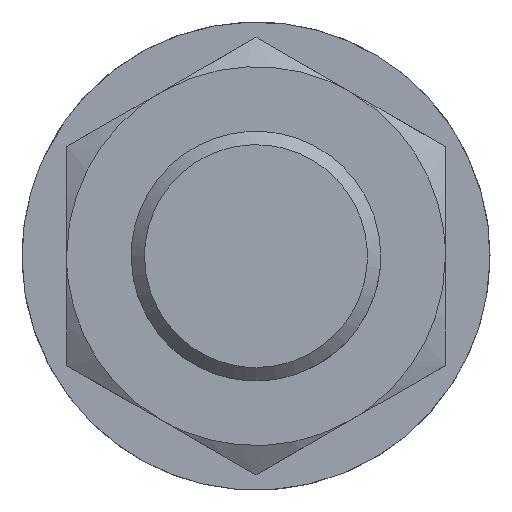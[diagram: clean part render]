
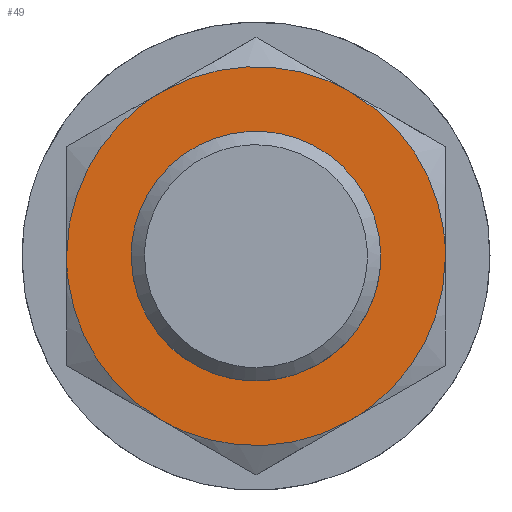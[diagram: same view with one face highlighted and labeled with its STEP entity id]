
A CAD part, left-side view. The second image highlights one B-rep face of the part: STEP entity #49.
In plain terms, the highlighted planar face has unit normal (-1, 0, 0).
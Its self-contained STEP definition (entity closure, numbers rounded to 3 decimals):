
#40=FACE_BOUND('',#138,.T.);
#49=ADVANCED_FACE('',(#92,#40),#663,.T.);
#92=FACE_OUTER_BOUND('',#137,.T.);
#137=EDGE_LOOP('',(#202,#203,#204,#205,#206,#207));
#138=EDGE_LOOP('',(#208,#209));
#202=ORIENTED_EDGE('',*,*,#405,.F.);
#203=ORIENTED_EDGE('',*,*,#407,.F.);
#204=ORIENTED_EDGE('',*,*,#408,.F.);
#205=ORIENTED_EDGE('',*,*,#406,.F.);
#206=ORIENTED_EDGE('',*,*,#404,.F.);
#207=ORIENTED_EDGE('',*,*,#403,.F.);
#208=ORIENTED_EDGE('',*,*,#393,.F.);
#209=ORIENTED_EDGE('',*,*,#391,.F.);
#391=EDGE_CURVE('',#608,#598,#518,.T.);
#393=EDGE_CURVE('',#598,#608,#519,.T.);
#403=EDGE_CURVE('',#602,#603,#527,.T.);
#404=EDGE_CURVE('',#603,#607,#528,.T.);
#405=EDGE_CURVE('',#604,#602,#529,.T.);
#406=EDGE_CURVE('',#607,#606,#530,.T.);
#407=EDGE_CURVE('',#605,#604,#531,.T.);
#408=EDGE_CURVE('',#606,#605,#532,.T.);
#518=(
BOUNDED_CURVE()
B_SPLINE_CURVE(2,(#1166,#1167,#1168,#1169,#1170),.UNSPECIFIED.,.F.,.F.)
B_SPLINE_CURVE_WITH_KNOTS((3,2,3),(87.964,131.947,175.929),
 .UNSPECIFIED.)
CURVE()
GEOMETRIC_REPRESENTATION_ITEM()
RATIONAL_B_SPLINE_CURVE((1.,0.707,1.,0.707,1.))
REPRESENTATION_ITEM('')
);
#519=(
BOUNDED_CURVE()
B_SPLINE_CURVE(2,(#1173,#1174,#1175,#1176,#1177),.UNSPECIFIED.,.F.,.F.)
B_SPLINE_CURVE_WITH_KNOTS((3,2,3),(0.,43.982,87.964),
 .UNSPECIFIED.)
CURVE()
GEOMETRIC_REPRESENTATION_ITEM()
RATIONAL_B_SPLINE_CURVE((1.,0.707,1.,0.707,1.))
REPRESENTATION_ITEM('')
);
#527=(
BOUNDED_CURVE()
B_SPLINE_CURVE(2,(#1215,#1216,#1217),.UNSPECIFIED.,.F.,.F.)
B_SPLINE_CURVE_WITH_KNOTS((3,3),(0.,44.506),.UNSPECIFIED.)
CURVE()
GEOMETRIC_REPRESENTATION_ITEM()
RATIONAL_B_SPLINE_CURVE((1.,0.866,1.))
REPRESENTATION_ITEM('')
);
#528=(
BOUNDED_CURVE()
B_SPLINE_CURVE(2,(#1218,#1219,#1220),.UNSPECIFIED.,.F.,.F.)
B_SPLINE_CURVE_WITH_KNOTS((3,3),(0.,44.506),.UNSPECIFIED.)
CURVE()
GEOMETRIC_REPRESENTATION_ITEM()
RATIONAL_B_SPLINE_CURVE((1.,0.866,1.))
REPRESENTATION_ITEM('')
);
#529=(
BOUNDED_CURVE()
B_SPLINE_CURVE(2,(#1221,#1222,#1223),.UNSPECIFIED.,.F.,.F.)
B_SPLINE_CURVE_WITH_KNOTS((3,3),(0.,44.506),.UNSPECIFIED.)
CURVE()
GEOMETRIC_REPRESENTATION_ITEM()
RATIONAL_B_SPLINE_CURVE((1.,0.866,1.))
REPRESENTATION_ITEM('')
);
#530=(
BOUNDED_CURVE()
B_SPLINE_CURVE(2,(#1224,#1225,#1226),.UNSPECIFIED.,.F.,.F.)
B_SPLINE_CURVE_WITH_KNOTS((3,3),(0.,44.506),.UNSPECIFIED.)
CURVE()
GEOMETRIC_REPRESENTATION_ITEM()
RATIONAL_B_SPLINE_CURVE((1.,0.866,1.))
REPRESENTATION_ITEM('')
);
#531=(
BOUNDED_CURVE()
B_SPLINE_CURVE(2,(#1227,#1228,#1229),.UNSPECIFIED.,.F.,.F.)
B_SPLINE_CURVE_WITH_KNOTS((3,3),(0.,44.506),.UNSPECIFIED.)
CURVE()
GEOMETRIC_REPRESENTATION_ITEM()
RATIONAL_B_SPLINE_CURVE((1.,0.866,1.))
REPRESENTATION_ITEM('')
);
#532=(
BOUNDED_CURVE()
B_SPLINE_CURVE(2,(#1230,#1231,#1232),.UNSPECIFIED.,.F.,.F.)
B_SPLINE_CURVE_WITH_KNOTS((3,3),(0.,44.506),.UNSPECIFIED.)
CURVE()
GEOMETRIC_REPRESENTATION_ITEM()
RATIONAL_B_SPLINE_CURVE((1.,0.866,1.))
REPRESENTATION_ITEM('')
);
#598=VERTEX_POINT('',#1134);
#602=VERTEX_POINT('',#1138);
#603=VERTEX_POINT('',#1139);
#604=VERTEX_POINT('',#1140);
#605=VERTEX_POINT('',#1141);
#606=VERTEX_POINT('',#1142);
#607=VERTEX_POINT('',#1143);
#608=VERTEX_POINT('',#1144);
#663=PLANE('',#777);
#777=AXIS2_PLACEMENT_3D('',#891,#803,$);
#803=DIRECTION('',(-1.,0.,0.));
#891=CARTESIAN_POINT('',(75.667,-51.12,-59.01));
#1134=CARTESIAN_POINT('',(75.667,28.,0.));
#1138=CARTESIAN_POINT('',(75.667,-21.25,-36.806));
#1139=CARTESIAN_POINT('',(75.667,21.25,-36.806));
#1140=CARTESIAN_POINT('',(75.667,-42.5,0.));
#1141=CARTESIAN_POINT('',(75.667,-21.25,36.806));
#1142=CARTESIAN_POINT('',(75.667,21.25,36.806));
#1143=CARTESIAN_POINT('',(75.667,42.5,0.));
#1144=CARTESIAN_POINT('',(75.667,-28.,0.));
#1166=CARTESIAN_POINT('',(75.667,-28.,0.));
#1167=CARTESIAN_POINT('',(75.667,-28.,28.));
#1168=CARTESIAN_POINT('',(75.667,0.,28.));
#1169=CARTESIAN_POINT('',(75.667,28.,28.));
#1170=CARTESIAN_POINT('',(75.667,28.,0.));
#1173=CARTESIAN_POINT('',(75.667,28.,0.));
#1174=CARTESIAN_POINT('',(75.667,28.,-28.));
#1175=CARTESIAN_POINT('',(75.667,0.,-28.));
#1176=CARTESIAN_POINT('',(75.667,-28.,-28.));
#1177=CARTESIAN_POINT('',(75.667,-28.,0.));
#1215=CARTESIAN_POINT('',(75.667,-21.25,-36.806));
#1216=CARTESIAN_POINT('',(75.667,0.,-49.075));
#1217=CARTESIAN_POINT('',(75.667,21.25,-36.806));
#1218=CARTESIAN_POINT('',(75.667,21.25,-36.806));
#1219=CARTESIAN_POINT('',(75.667,42.5,-24.537));
#1220=CARTESIAN_POINT('',(75.667,42.5,0.));
#1221=CARTESIAN_POINT('',(75.667,-42.5,0.));
#1222=CARTESIAN_POINT('',(75.667,-42.5,-24.537));
#1223=CARTESIAN_POINT('',(75.667,-21.25,-36.806));
#1224=CARTESIAN_POINT('',(75.667,42.5,0.));
#1225=CARTESIAN_POINT('',(75.667,42.5,24.537));
#1226=CARTESIAN_POINT('',(75.667,21.25,36.806));
#1227=CARTESIAN_POINT('',(75.667,-21.25,36.806));
#1228=CARTESIAN_POINT('',(75.667,-42.5,24.537));
#1229=CARTESIAN_POINT('',(75.667,-42.5,0.));
#1230=CARTESIAN_POINT('',(75.667,21.25,36.806));
#1231=CARTESIAN_POINT('',(75.667,0.,49.075));
#1232=CARTESIAN_POINT('',(75.667,-21.25,36.806));
